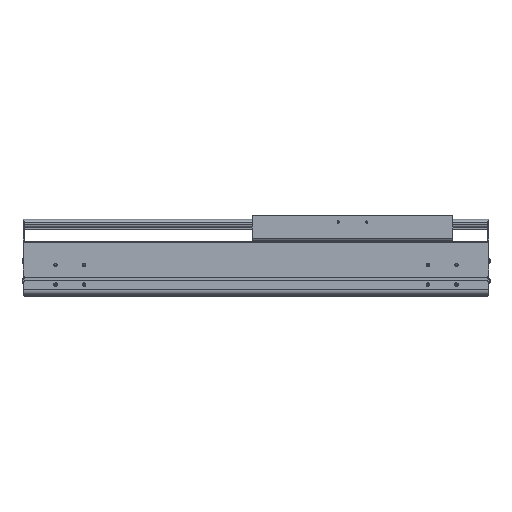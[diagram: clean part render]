
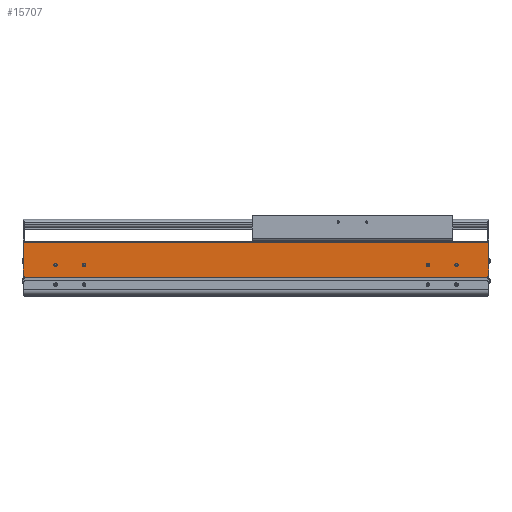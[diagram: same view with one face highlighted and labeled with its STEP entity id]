
A CAD part, top view. The second image highlights one B-rep face of the part: STEP entity #15707.
In plain terms, the highlighted planar face has unit normal (0, 0, 1).
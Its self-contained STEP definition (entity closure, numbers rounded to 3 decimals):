
#1630=DIRECTION('',(0.,-1.,0.));
#1631=VECTOR('',#1630,2.55);
#1632=CARTESIAN_POINT('',(0.,34.65,107.));
#1633=LINE('',#1632,#1631);
#2113=DIRECTION('',(1.,0.,0.));
#2114=VECTOR('',#2113,2.);
#2115=CARTESIAN_POINT('',(-811.,34.65,107.));
#2116=LINE('',#2115,#2114);
#2117=CARTESIAN_POINT('',(-54.5,54.,107.));
#2118=DIRECTION('',(0.,0.,-1.));
#2119=DIRECTION('',(1.,0.,0.));
#2120=AXIS2_PLACEMENT_3D('',#2117,#2118,#2119);
#2122=CARTESIAN_POINT('',(-54.5,54.,107.));
#2123=DIRECTION('',(0.,0.,-1.));
#2124=DIRECTION('',(-1.,0.,0.));
#2125=AXIS2_PLACEMENT_3D('',#2122,#2123,#2124);
#2127=CARTESIAN_POINT('',(-104.5,54.,107.));
#2128=DIRECTION('',(0.,0.,-1.));
#2129=DIRECTION('',(1.,0.,0.));
#2130=AXIS2_PLACEMENT_3D('',#2127,#2128,#2129);
#2132=CARTESIAN_POINT('',(-104.5,54.,107.));
#2133=DIRECTION('',(0.,0.,-1.));
#2134=DIRECTION('',(-1.,0.,0.));
#2135=AXIS2_PLACEMENT_3D('',#2132,#2133,#2134);
#2137=CARTESIAN_POINT('',(-754.5,54.,107.));
#2138=DIRECTION('',(0.,0.,-1.));
#2139=DIRECTION('',(1.,0.,0.));
#2140=AXIS2_PLACEMENT_3D('',#2137,#2138,#2139);
#2142=CARTESIAN_POINT('',(-754.5,54.,107.));
#2143=DIRECTION('',(0.,0.,-1.));
#2144=DIRECTION('',(-1.,0.,0.));
#2145=AXIS2_PLACEMENT_3D('',#2142,#2143,#2144);
#2147=CARTESIAN_POINT('',(-704.5,54.,107.));
#2148=DIRECTION('',(0.,0.,-1.));
#2149=DIRECTION('',(1.,0.,0.));
#2150=AXIS2_PLACEMENT_3D('',#2147,#2148,#2149);
#2152=CARTESIAN_POINT('',(-704.5,54.,107.));
#2153=DIRECTION('',(0.,0.,-1.));
#2154=DIRECTION('',(-1.,0.,0.));
#2155=AXIS2_PLACEMENT_3D('',#2152,#2153,#2154);
#2157=DIRECTION('',(0.,-1.,0.));
#2158=VECTOR('',#2157,2.55);
#2159=CARTESIAN_POINT('',(-809.,34.65,107.));
#2160=LINE('',#2159,#2158);
#2161=DIRECTION('',(0.,-1.,0.));
#2162=VECTOR('',#2161,58.85);
#2163=CARTESIAN_POINT('',(-811.,93.5,107.));
#2164=LINE('',#2163,#2162);
#2165=DIRECTION('',(0.,1.,0.));
#2166=VECTOR('',#2165,58.85);
#2167=CARTESIAN_POINT('',(2.,34.65,107.));
#2168=LINE('',#2167,#2166);
#2169=DIRECTION('',(1.,0.,0.));
#2170=VECTOR('',#2169,809.);
#2171=CARTESIAN_POINT('',(-809.,32.1,107.));
#2172=LINE('',#2171,#2170);
#2277=DIRECTION('',(-1.,0.,0.));
#2278=VECTOR('',#2277,813.);
#2279=CARTESIAN_POINT('',(2.,93.5,107.));
#2280=LINE('',#2279,#2278);
#9051=DIRECTION('',(1.,0.,0.));
#9052=VECTOR('',#9051,2.);
#9053=CARTESIAN_POINT('',(0.,34.65,107.));
#9054=LINE('',#9053,#9052);
#10301=CARTESIAN_POINT('',(-811.,34.65,107.));
#10302=VERTEX_POINT('',#10301);
#10303=CARTESIAN_POINT('',(-811.,93.5,107.));
#10304=VERTEX_POINT('',#10303);
#10533=CARTESIAN_POINT('',(-809.,32.1,107.));
#10534=VERTEX_POINT('',#10533);
#10921=CARTESIAN_POINT('',(0.,32.1,107.));
#10922=VERTEX_POINT('',#10921);
#10923=CARTESIAN_POINT('',(-52.,54.,107.));
#10924=CARTESIAN_POINT('',(-57.,54.,107.));
#10925=VERTEX_POINT('',#10923);
#10926=VERTEX_POINT('',#10924);
#10927=CARTESIAN_POINT('',(-102.,54.,107.));
#10928=CARTESIAN_POINT('',(-107.,54.,107.));
#10929=VERTEX_POINT('',#10927);
#10930=VERTEX_POINT('',#10928);
#10931=CARTESIAN_POINT('',(-752.,54.,107.));
#10932=CARTESIAN_POINT('',(-757.,54.,107.));
#10933=VERTEX_POINT('',#10931);
#10934=VERTEX_POINT('',#10932);
#10935=CARTESIAN_POINT('',(-702.,54.,107.));
#10936=CARTESIAN_POINT('',(-707.,54.,107.));
#10937=VERTEX_POINT('',#10935);
#10938=VERTEX_POINT('',#10936);
#11897=CARTESIAN_POINT('',(2.,34.65,107.));
#11898=VERTEX_POINT('',#11897);
#11899=CARTESIAN_POINT('',(2.,93.5,107.));
#11900=VERTEX_POINT('',#11899);
#12243=CARTESIAN_POINT('',(0.,34.65,107.));
#12244=VERTEX_POINT('',#12243);
#12431=CARTESIAN_POINT('',(-809.,34.65,107.));
#12432=VERTEX_POINT('',#12431);
#15665=CARTESIAN_POINT('',(-404.5,62.8,107.));
#15666=DIRECTION('',(0.,0.,1.));
#15667=DIRECTION('',(0.,-1.,0.));
#15668=AXIS2_PLACEMENT_3D('',#15665,#15666,#15667);
#15669=PLANE('',#15668);
#15670=ORIENTED_EDGE('',*,*,#13918,.F.);
#15671=ORIENTED_EDGE('',*,*,#15660,.F.);
#15672=ORIENTED_EDGE('',*,*,#14547,.F.);
#15674=ORIENTED_EDGE('',*,*,#15673,.F.);
#15675=ORIENTED_EDGE('',*,*,#13656,.F.);
#15677=ORIENTED_EDGE('',*,*,#15676,.F.);
#15678=ORIENTED_EDGE('',*,*,#15267,.T.);
#15680=ORIENTED_EDGE('',*,*,#15679,.F.);
#15681=EDGE_LOOP('',(#15670,#15671,#15672,#15674,#15675,#15677,#15678,#15680));
#15682=FACE_OUTER_BOUND('',#15681,.F.);
#15684=ORIENTED_EDGE('',*,*,#15683,.F.);
#15686=ORIENTED_EDGE('',*,*,#15685,.F.);
#15687=EDGE_LOOP('',(#15684,#15686));
#15688=FACE_BOUND('',#15687,.F.);
#15690=ORIENTED_EDGE('',*,*,#15689,.F.);
#15692=ORIENTED_EDGE('',*,*,#15691,.F.);
#15693=EDGE_LOOP('',(#15690,#15692));
#15694=FACE_BOUND('',#15693,.F.);
#15696=ORIENTED_EDGE('',*,*,#15695,.F.);
#15698=ORIENTED_EDGE('',*,*,#15697,.F.);
#15699=EDGE_LOOP('',(#15696,#15698));
#15700=FACE_BOUND('',#15699,.F.);
#15702=ORIENTED_EDGE('',*,*,#15701,.F.);
#15704=ORIENTED_EDGE('',*,*,#15703,.F.);
#15705=EDGE_LOOP('',(#15702,#15704));
#15706=FACE_BOUND('',#15705,.F.);
#15707=ADVANCED_FACE('',(#15682,#15688,#15694,#15700,#15706),#15669,.T.);
#2121=CIRCLE('',#2120,2.5);
#2126=CIRCLE('',#2125,2.5);
#2131=CIRCLE('',#2130,2.5);
#2136=CIRCLE('',#2135,2.5);
#2141=CIRCLE('',#2140,2.5);
#2146=CIRCLE('',#2145,2.5);
#2151=CIRCLE('',#2150,2.5);
#2156=CIRCLE('',#2155,2.5);
#13656=EDGE_CURVE('',#11898,#11900,#2168,.T.);
#13918=EDGE_CURVE('',#12432,#10534,#2160,.T.);
#14547=EDGE_CURVE('',#10304,#10302,#2164,.T.);
#15267=EDGE_CURVE('',#12244,#10922,#1633,.T.);
#15660=EDGE_CURVE('',#10302,#12432,#2116,.T.);
#15673=EDGE_CURVE('',#11900,#10304,#2280,.T.);
#15676=EDGE_CURVE('',#12244,#11898,#9054,.T.);
#15679=EDGE_CURVE('',#10534,#10922,#2172,.T.);
#15683=EDGE_CURVE('',#10929,#10930,#2131,.T.);
#15685=EDGE_CURVE('',#10930,#10929,#2136,.T.);
#15689=EDGE_CURVE('',#10933,#10934,#2141,.T.);
#15691=EDGE_CURVE('',#10934,#10933,#2146,.T.);
#15695=EDGE_CURVE('',#10937,#10938,#2151,.T.);
#15697=EDGE_CURVE('',#10938,#10937,#2156,.T.);
#15701=EDGE_CURVE('',#10925,#10926,#2121,.T.);
#15703=EDGE_CURVE('',#10926,#10925,#2126,.T.);
